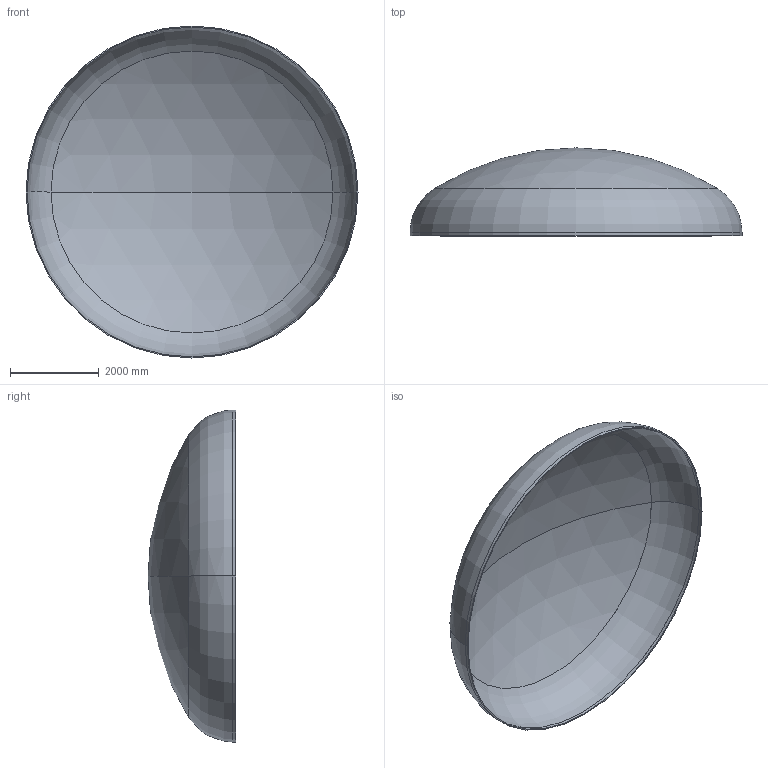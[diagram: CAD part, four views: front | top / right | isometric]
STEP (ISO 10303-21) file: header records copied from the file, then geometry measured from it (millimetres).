
FILE_DESCRIPTION (( 'STEP AP203' ), '1' );
FILE_NAME ('DIN 28013 Korbbogenform_-_Boden DIN 28013 - 7500 x 70 - I - s=23.step', '2016-07-04T10:52:20', ( '' ), ( '' ), 'SwSTEP 2.0', 'SolidWorks 2013', '' );
FILE_SCHEMA (( 'CONFIG_CONTROL_DESIGN' ));
Length unit declared in the file: millimetre
Products named in the file (1): DIN 28013 Korbbogenform_-_Boden DIN 28013 - 7500 x 70 - I - s=23
Bounding box: 7500 x 1987.05 x 7500 mm (x, y, z)
Volume: 1439516830.7 mm3; surface area: 125716696.4 mm2
Topology: 1 solids, 1 shells, 13 faces, 24 edges, 14 vertices
Faces by surface type: torus 4, cylinder 4, sphere 4, plane 1
Entity records: 407 total; most frequent: DIRECTION 72, CARTESIAN_POINT 52, ORIENTED_EDGE 48, AXIS2_PLACEMENT_3D 34, EDGE_CURVE 24, CIRCLE 20, VERTEX_POINT 14, EDGE_LOOP 14
